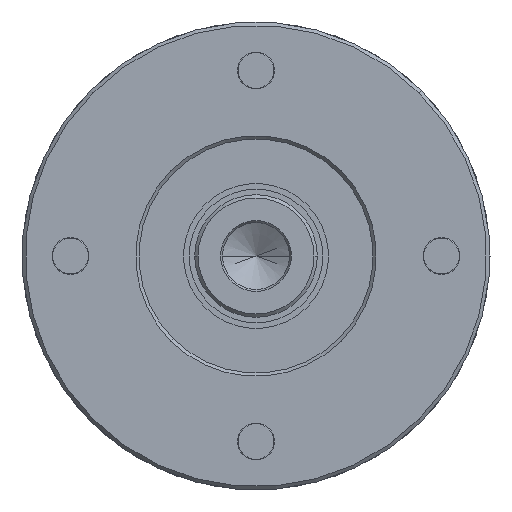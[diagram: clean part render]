
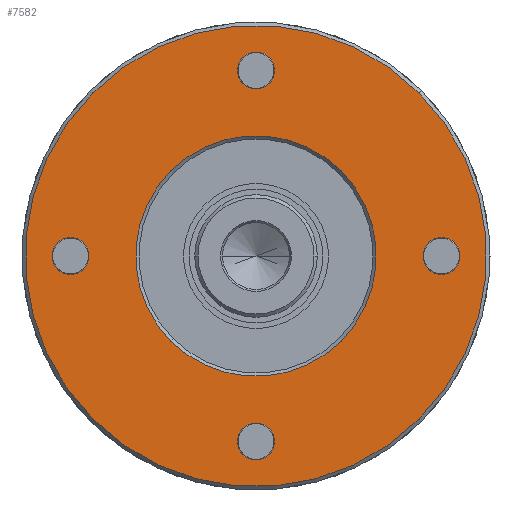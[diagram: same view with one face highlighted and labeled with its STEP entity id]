
A CAD part, left-side view. The second image highlights one B-rep face of the part: STEP entity #7582.
In plain terms, the highlighted planar face has unit normal (-1, 0, 0).
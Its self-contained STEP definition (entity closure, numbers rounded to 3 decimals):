
#6817=CARTESIAN_POINT('',(0.,11.773,-11.773));
#6818=DIRECTION('',(1.,0.,0.));
#6819=DIRECTION('',(0.,-1.,0.));
#6820=AXIS2_PLACEMENT_3D('',#6817,#6818,#6819);
#6825=CARTESIAN_POINT('',(0.,11.773,-11.773));
#6826=DIRECTION('',(1.,0.,0.));
#6827=DIRECTION('',(0.,1.,0.));
#6828=AXIS2_PLACEMENT_3D('',#6825,#6826,#6827);
#6833=CARTESIAN_POINT('',(0.,11.773,11.773));
#6834=DIRECTION('',(1.,0.,0.));
#6835=DIRECTION('',(0.,-1.,0.));
#6836=AXIS2_PLACEMENT_3D('',#6833,#6834,#6835);
#6841=CARTESIAN_POINT('',(0.,11.773,11.773));
#6842=DIRECTION('',(1.,0.,0.));
#6843=DIRECTION('',(0.,1.,0.));
#6844=AXIS2_PLACEMENT_3D('',#6841,#6842,#6843);
#6849=CARTESIAN_POINT('',(0.,-11.773,11.773));
#6850=DIRECTION('',(1.,0.,0.));
#6851=DIRECTION('',(0.,-1.,0.));
#6852=AXIS2_PLACEMENT_3D('',#6849,#6850,#6851);
#6857=CARTESIAN_POINT('',(0.,-11.773,11.773));
#6858=DIRECTION('',(1.,0.,0.));
#6859=DIRECTION('',(0.,1.,0.));
#6860=AXIS2_PLACEMENT_3D('',#6857,#6858,#6859);
#6865=CARTESIAN_POINT('',(0.,-11.773,-11.773));
#6866=DIRECTION('',(1.,0.,0.));
#6867=DIRECTION('',(0.,-1.,0.));
#6868=AXIS2_PLACEMENT_3D('',#6865,#6866,#6867);
#6873=CARTESIAN_POINT('',(0.,-11.773,-11.773));
#6874=DIRECTION('',(1.,0.,0.));
#6875=DIRECTION('',(0.,1.,0.));
#6876=AXIS2_PLACEMENT_3D('',#6873,#6874,#6875);
#6881=CARTESIAN_POINT('',(0.,0.,0.));
#6882=DIRECTION('',(-1.,0.,0.));
#6883=DIRECTION('',(0.,1.,0.));
#6884=AXIS2_PLACEMENT_3D('',#6881,#6882,#6883);
#6889=CARTESIAN_POINT('',(0.,0.,0.));
#6890=DIRECTION('',(-1.,0.,0.));
#6891=DIRECTION('',(0.,-1.,0.));
#6892=AXIS2_PLACEMENT_3D('',#6889,#6890,#6891);
#6897=CARTESIAN_POINT('',(0.,0.,0.));
#6898=DIRECTION('',(-1.,0.,0.));
#6899=DIRECTION('',(0.,-1.,0.));
#6900=AXIS2_PLACEMENT_3D('',#6897,#6898,#6899);
#6905=CARTESIAN_POINT('',(0.,0.,0.));
#6906=DIRECTION('',(-1.,0.,0.));
#6907=DIRECTION('',(0.,1.,0.));
#6908=AXIS2_PLACEMENT_3D('',#6905,#6906,#6907);
#7461=CARTESIAN_POINT('',(0.,10.123,-11.773));
#7462=CARTESIAN_POINT('',(0.,13.423,-11.773));
#7463=VERTEX_POINT('',#7461);
#7464=VERTEX_POINT('',#7462);
#7469=CARTESIAN_POINT('',(0.,10.123,11.773));
#7470=CARTESIAN_POINT('',(0.,13.423,11.773));
#7471=VERTEX_POINT('',#7469);
#7472=VERTEX_POINT('',#7470);
#7477=CARTESIAN_POINT('',(0.,-13.423,11.773));
#7478=CARTESIAN_POINT('',(0.,-10.123,11.773));
#7479=VERTEX_POINT('',#7477);
#7480=VERTEX_POINT('',#7478);
#7485=CARTESIAN_POINT('',(0.,-13.423,-11.773));
#7486=CARTESIAN_POINT('',(0.,-10.123,-11.773));
#7487=VERTEX_POINT('',#7485);
#7488=VERTEX_POINT('',#7486);
#7513=CARTESIAN_POINT('',(0.,20.7,0.));
#7514=CARTESIAN_POINT('',(0.,-20.7,0.));
#7515=VERTEX_POINT('',#7513);
#7516=VERTEX_POINT('',#7514);
#7529=CARTESIAN_POINT('',(0.,-10.8,0.));
#7530=CARTESIAN_POINT('',(0.,10.8,0.));
#7531=VERTEX_POINT('',#7529);
#7532=VERTEX_POINT('',#7530);
#7541=CARTESIAN_POINT('',(0.,0.,0.));
#7542=DIRECTION('',(1.,0.,0.));
#7543=DIRECTION('',(0.,-1.,0.));
#7544=AXIS2_PLACEMENT_3D('',#7541,#7542,#7543);
#7545=PLANE('',#7544);
#7547=ORIENTED_EDGE('',*,*,#7546,.F.);
#7549=ORIENTED_EDGE('',*,*,#7548,.F.);
#7550=EDGE_LOOP('',(#7547,#7549));
#7551=FACE_OUTER_BOUND('',#7550,.F.);
#7553=ORIENTED_EDGE('',*,*,#7552,.F.);
#7555=ORIENTED_EDGE('',*,*,#7554,.F.);
#7556=EDGE_LOOP('',(#7553,#7555));
#7557=FACE_BOUND('',#7556,.F.);
#7559=ORIENTED_EDGE('',*,*,#7558,.F.);
#7561=ORIENTED_EDGE('',*,*,#7560,.F.);
#7562=EDGE_LOOP('',(#7559,#7561));
#7563=FACE_BOUND('',#7562,.F.);
#7565=ORIENTED_EDGE('',*,*,#7564,.F.);
#7567=ORIENTED_EDGE('',*,*,#7566,.F.);
#7568=EDGE_LOOP('',(#7565,#7567));
#7569=FACE_BOUND('',#7568,.F.);
#7571=ORIENTED_EDGE('',*,*,#7570,.F.);
#7573=ORIENTED_EDGE('',*,*,#7572,.F.);
#7574=EDGE_LOOP('',(#7571,#7573));
#7575=FACE_BOUND('',#7574,.F.);
#7577=ORIENTED_EDGE('',*,*,#7576,.T.);
#7579=ORIENTED_EDGE('',*,*,#7578,.T.);
#7580=EDGE_LOOP('',(#7577,#7579));
#7581=FACE_BOUND('',#7580,.F.);
#6821=CIRCLE('',#6820,1.65);
#6829=CIRCLE('',#6828,1.65);
#6837=CIRCLE('',#6836,1.65);
#6845=CIRCLE('',#6844,1.65);
#6853=CIRCLE('',#6852,1.65);
#6861=CIRCLE('',#6860,1.65);
#6869=CIRCLE('',#6868,1.65);
#6877=CIRCLE('',#6876,1.65);
#6885=CIRCLE('',#6884,20.7);
#6893=CIRCLE('',#6892,20.7);
#6901=CIRCLE('',#6900,10.8);
#6909=CIRCLE('',#6908,10.8);
#7546=EDGE_CURVE('',#7515,#7516,#6885,.T.);
#7548=EDGE_CURVE('',#7516,#7515,#6893,.T.);
#7552=EDGE_CURVE('',#7471,#7472,#6837,.T.);
#7554=EDGE_CURVE('',#7472,#7471,#6845,.T.);
#7558=EDGE_CURVE('',#7479,#7480,#6853,.T.);
#7560=EDGE_CURVE('',#7480,#7479,#6861,.T.);
#7564=EDGE_CURVE('',#7487,#7488,#6869,.T.);
#7566=EDGE_CURVE('',#7488,#7487,#6877,.T.);
#7570=EDGE_CURVE('',#7463,#7464,#6821,.T.);
#7572=EDGE_CURVE('',#7464,#7463,#6829,.T.);
#7576=EDGE_CURVE('',#7531,#7532,#6901,.T.);
#7578=EDGE_CURVE('',#7532,#7531,#6909,.T.);
#7582=ADVANCED_FACE('',(#7551,#7557,#7563,#7569,#7575,#7581),#7545,.F.);
